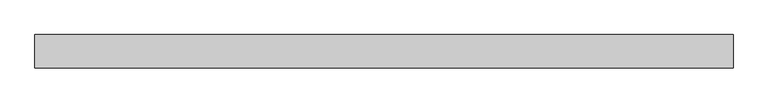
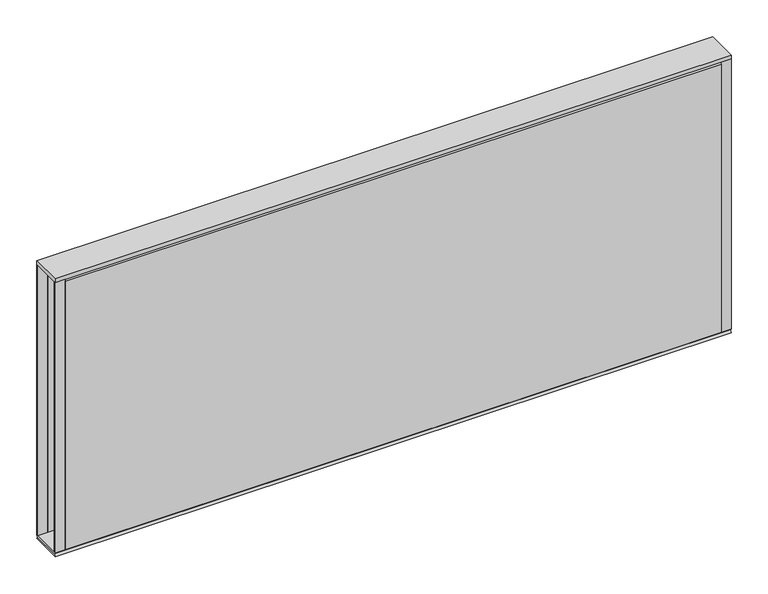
"""IFC4 building model written with IfcOpenShell, lengths in millimetres: furniture geometry, Steelcase - Kick Solutions - Panel - Stacker - Tackable Acoustical : 18H x 42W."""

from ifc_helpers import new_model, si_unit, frame, origin, place, context, project, spatial, polyline, outline, extrude, source, transform, mapped, element, save


def furniture_6b0d1685(model_context):
    return source(origin(), model_context, "Body", "SweptSolid", [
        extrude(outline(polyline([(-50.7995075, 1073.2669139), (-0.000494, 1073.2669139), (-3.1752531, 1070.0921549), (-47.6247484, 1070.0921549), (-50.7995075, 1073.2669139)])), frame((0.0, 0.0, 0.0), z_axis=(1.0, 0.0, 0.0), x_axis=(0.0, 1.0, 0.0)), (0.0, 0.0, 1.0), 1066.8),
        extrude(outline(polyline([(0.0, 1073.2669139), (-3.1750015, 1073.2669139), (-3.1750015, 1524.1169018), (0.0, 1521.0357466), (0.0, 1073.2669139)])), frame((15.8749996, 0.0, 0.0), z_axis=(1.0, 0.0, 0.0), x_axis=(0.0, 1.0, 0.0)), (0.0, 0.0, 1.0), 1035.0500008),
        extrude(outline(polyline([(-50.8000015, 1073.2669139), (-50.8000015, 1521.0357466), (-47.625, 1524.1169018), (-47.625, 1073.2669139), (-50.8000015, 1073.2669139)])), frame((15.8749996, 0.0, 0.0), z_axis=(1.0, 0.0, 0.0), x_axis=(0.0, 1.0, 0.0)), (0.0, 0.0, 1.0), 1035.0500008),
        extrude(outline(polyline([(1066.8, -3.1750015), (1050.9250004, -3.1750015), (1050.9250004, 0.0), (1066.8, 0.0), (1066.8, -3.1750015)])), frame((0.0, 0.0, 1073.2669139), z_axis=(0.0, 0.0, 1.0), x_axis=(1.0, 0.0, 0.0)), (0.0, 0.0, 1.0), 450.8499879),
        extrude(outline(polyline([(15.8749996, -50.8000015), (0.0, -50.8000015), (0.0, -47.625), (15.8749996, -47.625), (15.8749996, -50.8000015)])), frame((0.0, 0.0, 1073.2669139), z_axis=(0.0, 0.0, 1.0), x_axis=(1.0, 0.0, 0.0)), (0.0, 0.0, 1.0), 450.8499879),
        extrude(outline(polyline([(1066.8, 0.0), (1066.8, -50.8000015), (0.0, -50.8000015), (0.0, 0.0), (1066.8, 0.0)])), frame((0.0, 0.0, 1524.1169018), z_axis=(0.0, 0.0, 1.0), x_axis=(1.0, 0.0, 0.0)), (0.0, 0.0, 1.0), 6.35),
        extrude(outline(polyline([(15.8749996, -3.1750015), (0.0, -3.1750015), (0.0, 0.0), (15.8749996, 0.0), (15.8749996, -3.1750015)])), frame((0.0, 0.0, 1073.2669139), z_axis=(0.0, 0.0, 1.0), x_axis=(1.0, 0.0, 0.0)), (0.0, 0.0, 1.0), 450.8499879),
        extrude(outline(polyline([(1066.8, -50.8000015), (1050.9250004, -50.8000015), (1050.9250004, -47.625), (1066.8, -47.625), (1066.8, -50.8000015)])), frame((0.0, 0.0, 1073.2669139), z_axis=(0.0, 0.0, 1.0), x_axis=(1.0, 0.0, 0.0)), (0.0, 0.0, 1.0), 450.8499879),
        extrude(outline(polyline([(-50.8000015, 1066.9169018), (-47.6247484, 1070.0921549), (-3.1752531, 1070.0921549), (0.0, 1066.9169018), (-50.8000015, 1066.9169018)])), frame((0.0, 0.0, 0.0), z_axis=(1.0, 0.0, 0.0), x_axis=(0.0, 1.0, 0.0)), (0.0, 0.0, 1.0), 1066.8),
    ])


if __name__ == "__main__":
    model = new_model("IFC4")
    model_context = context("Model", 3, world=origin())
    ifc_project = project(units=[si_unit("LENGTHUNIT", "METRE", prefix="MILLI")], contexts=[model_context])
    site = spatial("IfcSite", under=ifc_project)
    building = spatial("IfcBuilding", under=site)
    placement = place(None, origin())
    furniture_shape = furniture_6b0d1685(model_context)
    element("IfcFurniture", 1, ObjectType="Steelcase - Kick Solutions - Panel - Stacker - Tackable Acoustical : 18H x 42W", at=placement, inside=building, context=model_context, shape_type="MappedRepresentation", body=[
        mapped(furniture_shape, transform((0.0, 0.0, 0.0), x_axis=(1.0, 0.0, 0.0), y_axis=(0.0, 1.0, 0.0), z_axis=(0.0, 0.0, 1.0))),
    ])
    save(model, "model.ifc")
